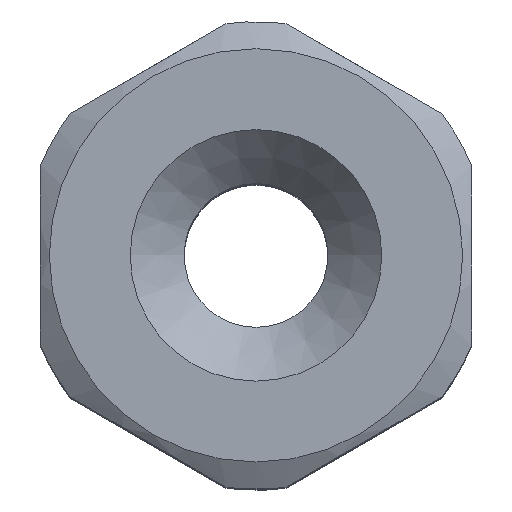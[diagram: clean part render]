
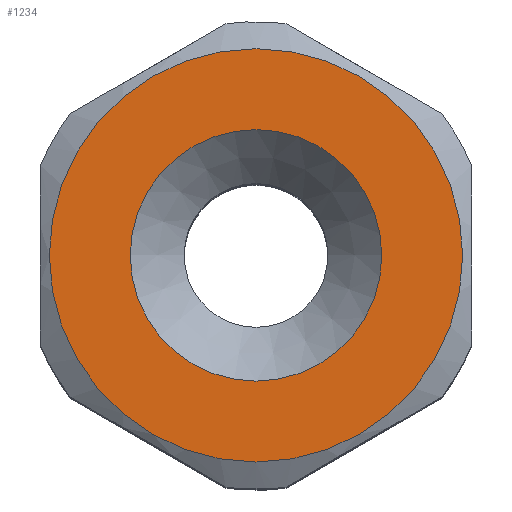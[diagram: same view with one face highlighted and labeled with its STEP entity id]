
A CAD part, top view. The second image highlights one B-rep face of the part: STEP entity #1234.
In plain terms, the highlighted planar face has unit normal (0, 0, 1).
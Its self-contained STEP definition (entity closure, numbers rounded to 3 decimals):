
#1009=CARTESIAN_POINT('',(0.,-11.5,57.0));
#1010=VERTEX_POINT('',#1009);
#1011=CARTESIAN_POINT('',(0.0,0.0,57.0));
#1012=DIRECTION('',(0.0,0.0,1.0));
#1013=DIRECTION('',(0.0,-1.0,0.0));
#1014=AXIS2_PLACEMENT_3D('',#1011,#1012,#1013);
#1015=CIRCLE('',#1014,11.5);
#1016=EDGE_CURVE('',#1010,#1010,#1015,.T.);
#1191=CARTESIAN_POINT('',(7.,0.,57.0));
#1192=VERTEX_POINT('',#1191);
#1193=CARTESIAN_POINT('',(0.0,0.0,57.0));
#1194=DIRECTION('',(0.0,0.0,1.0));
#1195=DIRECTION('',(-1.0,0.0,0.0));
#1196=AXIS2_PLACEMENT_3D('',#1193,#1194,#1195);
#1197=CIRCLE('',#1196,7.);
#1198=EDGE_CURVE('',#1192,#1192,#1197,.T.);
#1223=CARTESIAN_POINT('',(0.,0.,57.0));
#1224=DIRECTION('',(0.0,0.0,1.0));
#1225=DIRECTION('',(1.0,0.0,0.0));
#1226=AXIS2_PLACEMENT_3D('',#1223,#1224,#1225);
#1227=PLANE('',#1226);
#1228=ORIENTED_EDGE('',*,*,#1016,.T.);
#1229=EDGE_LOOP('',(#1228));
#1230=FACE_OUTER_BOUND('',#1229,.T.);
#1231=ORIENTED_EDGE('',*,*,#1198,.F.);
#1232=EDGE_LOOP('',(#1231));
#1233=FACE_BOUND('',#1232,.T.);
#1234=ADVANCED_FACE('',(#1230,#1233),#1227,.T.);
